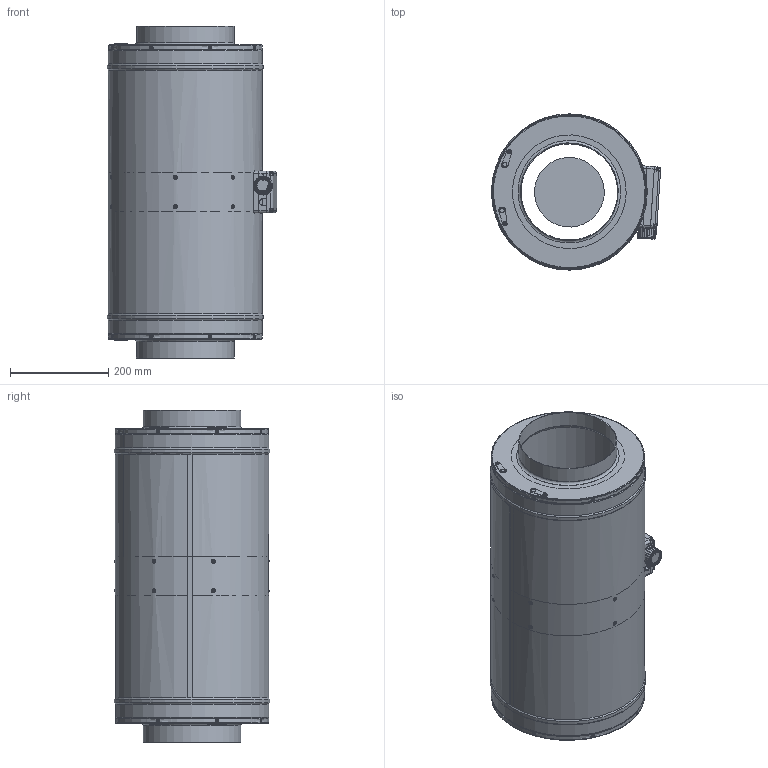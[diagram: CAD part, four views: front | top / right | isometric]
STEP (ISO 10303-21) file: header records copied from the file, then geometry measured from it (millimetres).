
FILE_DESCRIPTION (( 'STEP AP203' ), '1' );
FILE_NAME ('147662_02_EMIX008AC1S_step.step', '2022-05-27T07:26:57', ( '' ), ( '' ), 'SwSTEP 2.0', 'SolidWorks 2021', '' );
FILE_SCHEMA (( 'CONFIG_CONTROL_DESIGN' ));
Length unit declared in the file: millimetre
Products named in the file (1): 147662_02_EMIX008AC1S_step
Bounding box: 344.55 x 317.4 x 676 mm (x, y, z)
Surface area: 1754661.8 mm2 (no closed solid volume)
Topology: 0 solids, 78 shells, 430 faces, 2120 edges, 1714 vertices
Faces by surface type: plane 141, cylinder 93, bspline 76, torus 66, cone 53, sphere 1
Full cylindrical faces by diameter (mm): 2 x22, 7 x4, 8 x8, 9 x4, 197 x2, 199 x2, 313 x2, 313.4 x2, 317.4 x2
Entity records: 26239 total; most frequent: CARTESIAN_POINT 11311, DIRECTION 2713, ORIENTED_EDGE 2545, EDGE_CURVE 2013, VERTEX_POINT 1704, AXIS2_PLACEMENT_3D 945, VECTOR 823, LINE 823
